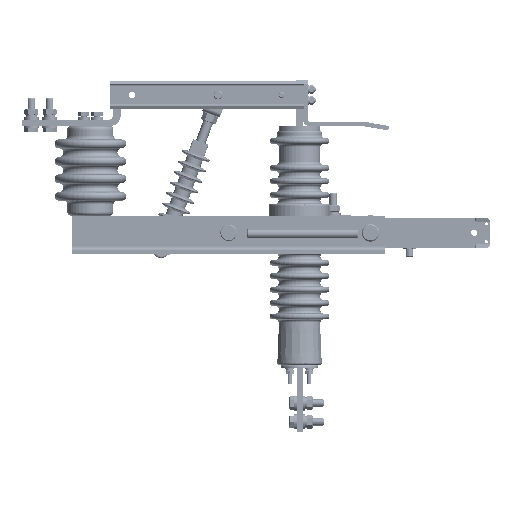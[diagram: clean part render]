
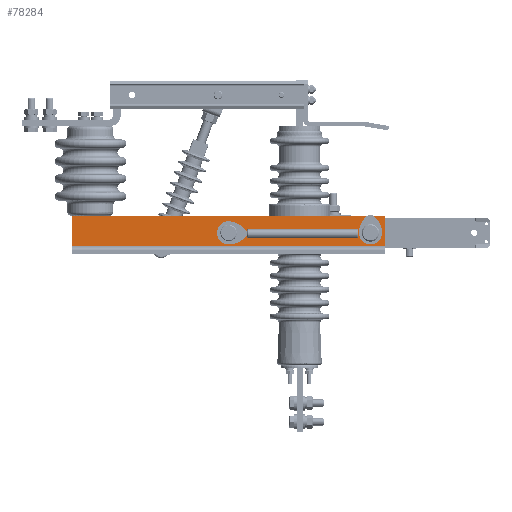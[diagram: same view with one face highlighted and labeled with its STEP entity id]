
A CAD part, left-side view. The second image highlights one B-rep face of the part: STEP entity #78284.
In plain terms, the highlighted planar face has unit normal (-1, 0, 0).
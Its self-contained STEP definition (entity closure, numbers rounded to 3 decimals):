
#199 = VECTOR ( 'NONE', #44111, 1000. ) ;
#622 = CARTESIAN_POINT ( 'NONE',  ( -268.75, 165., 50. ) ) ;
#2851 = FACE_OUTER_BOUND ( 'NONE', #33943, .T. ) ;
#4139 = LINE ( 'NONE', #30414, #62606 ) ;
#4360 = ORIENTED_EDGE ( 'NONE', *, *, #20562, .T. ) ;
#5341 = DIRECTION ( 'NONE',  ( 0., 1., 0. ) ) ;
#7715 = DIRECTION ( 'NONE',  ( 0., -1., 0. ) ) ;
#8832 = LINE ( 'NONE', #622, #46980 ) ;
#10510 = ORIENTED_EDGE ( 'NONE', *, *, #31471, .F. ) ;
#13115 = CARTESIAN_POINT ( 'NONE',  ( -268.75, -255., 50. ) ) ;
#14239 = VERTEX_POINT ( 'NONE', #86745 ) ;
#16687 = EDGE_CURVE ( 'NONE', #48911, #84930, #27294, .T. ) ;
#20562 = EDGE_CURVE ( 'NONE', #14239, #48911, #8832, .T. ) ;
#22873 = AXIS2_PLACEMENT_3D ( 'NONE', #96720, #51035, #5341 ) ;
#24703 = EDGE_CURVE ( 'NONE', #72392, #72392, #96442, .T. ) ;
#26349 = CARTESIAN_POINT ( 'NONE',  ( -268.75, 165., 50. ) ) ;
#27294 = LINE ( 'NONE', #68790, #45193 ) ;
#27697 = AXIS2_PLACEMENT_3D ( 'NONE', #89032, #43343, #96697 ) ;
#28549 = ORIENTED_EDGE ( 'NONE', *, *, #49516, .T. ) ;
#30414 = CARTESIAN_POINT ( 'NONE',  ( -268.75, 165., 50. ) ) ;
#31471 = EDGE_CURVE ( 'NONE', #97188, #84930, #63450, .T. ) ;
#33943 = EDGE_LOOP ( 'NONE', ( #86965, #10510, #54913, #4360 ) ) ;
#34023 = DIRECTION ( 'NONE',  ( -1., 0., 0. ) ) ;
#35259 = AXIS2_PLACEMENT_3D ( 'NONE', #26349, #34023, #87369 ) ;
#38114 = DIRECTION ( 'NONE',  ( 0., -1., 0. ) ) ;
#39419 = EDGE_LOOP ( 'NONE', ( #55586 ) ) ;
#42333 = VERTEX_POINT ( 'NONE', #47208 ) ;
#43343 = DIRECTION ( 'NONE',  ( 1., 0., 0. ) ) ;
#43437 = FACE_BOUND ( 'NONE', #86084, .T. ) ;
#44111 = DIRECTION ( 'NONE',  ( 0., 0., -1. ) ) ;
#45193 = VECTOR ( 'NONE', #38114, 1000. ) ;
#46980 = VECTOR ( 'NONE', #53960, 1000. ) ;
#47208 = CARTESIAN_POINT ( 'NONE',  ( -268.75, -33.81, 28. ) ) ;
#48911 = VERTEX_POINT ( 'NONE', #65281 ) ;
#49025 = PLANE ( 'NONE',  #35259 ) ;
#49516 = EDGE_CURVE ( 'NONE', #42333, #42333, #54043, .T. ) ;
#51035 = DIRECTION ( 'NONE',  ( 1., 0., 0. ) ) ;
#53960 = DIRECTION ( 'NONE',  ( 0., 0., -1. ) ) ;
#54043 = CIRCLE ( 'NONE', #22873, 11.19 ) ;
#54913 = ORIENTED_EDGE ( 'NONE', *, *, #58841, .F. ) ;
#55586 = ORIENTED_EDGE ( 'NONE', *, *, #24703, .T. ) ;
#58841 = EDGE_CURVE ( 'NONE', #14239, #97188, #4139, .T. ) ;
#62606 = VECTOR ( 'NONE', #7715, 1000. ) ;
#63450 = LINE ( 'NONE', #13115, #199 ) ;
#65281 = CARTESIAN_POINT ( 'NONE',  ( -268.75, 165., 10. ) ) ;
#68790 = CARTESIAN_POINT ( 'NONE',  ( -268.75, 165., 10. ) ) ;
#72392 = VERTEX_POINT ( 'NONE', #72997 ) ;
#72997 = CARTESIAN_POINT ( 'NONE',  ( -268.75, -235., 39.71 ) ) ;
#76450 = CARTESIAN_POINT ( 'NONE',  ( -268.75, -255., 50. ) ) ;
#78284 = ADVANCED_FACE ( 'NONE', ( #81601, #2851, #43437 ), #49025, .T. ) ;
#81601 = FACE_BOUND ( 'NONE', #39419, .T. ) ;
#84930 = VERTEX_POINT ( 'NONE', #93195 ) ;
#86084 = EDGE_LOOP ( 'NONE', ( #28549 ) ) ;
#86745 = CARTESIAN_POINT ( 'NONE',  ( -268.75, 165., 50. ) ) ;
#86965 = ORIENTED_EDGE ( 'NONE', *, *, #16687, .T. ) ;
#87369 = DIRECTION ( 'NONE',  ( 0., 1., 0. ) ) ;
#89032 = CARTESIAN_POINT ( 'NONE',  ( -268.75, -235., 28. ) ) ;
#93195 = CARTESIAN_POINT ( 'NONE',  ( -268.75, -255., 10. ) ) ;
#96442 = CIRCLE ( 'NONE', #27697, 11.71 ) ;
#96697 = DIRECTION ( 'NONE',  ( 0., 0., 1. ) ) ;
#96720 = CARTESIAN_POINT ( 'NONE',  ( -268.75, -45., 28. ) ) ;
#97188 = VERTEX_POINT ( 'NONE', #76450 ) ;
